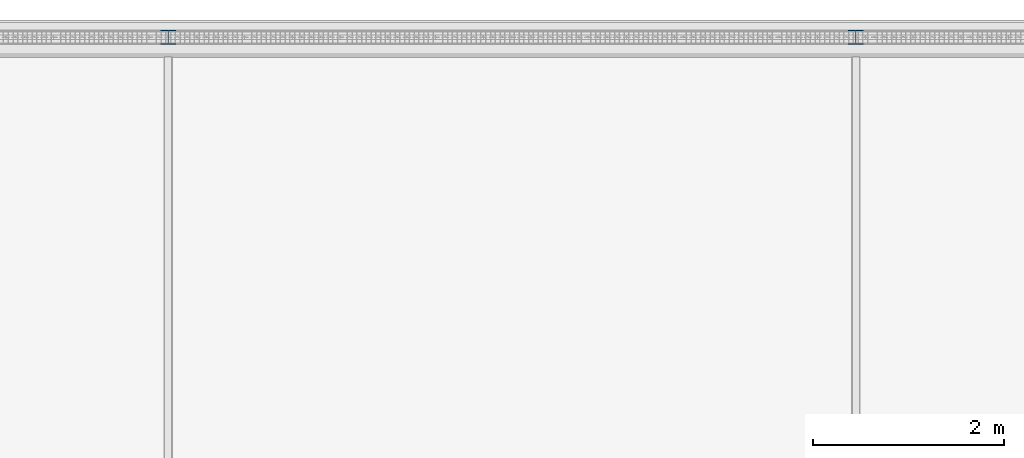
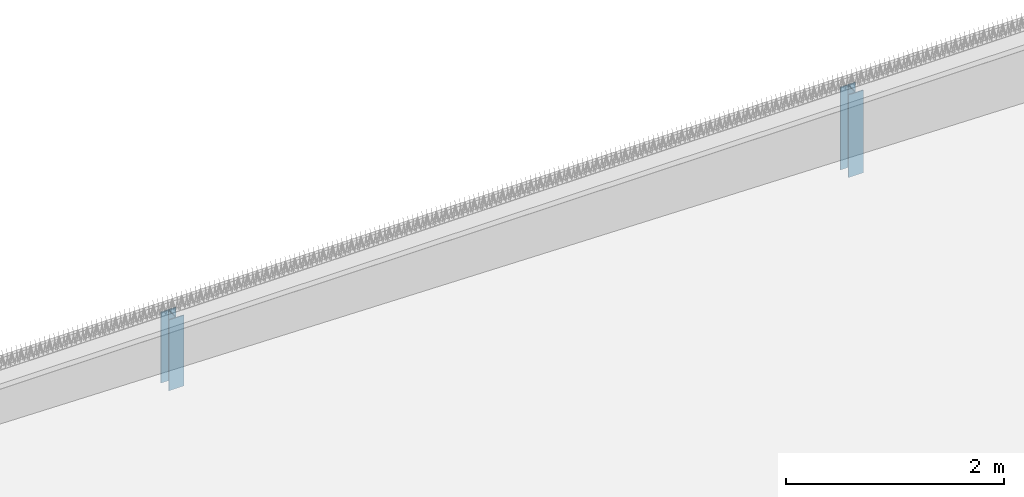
# One storey, part 30 of 81: 2 columns.
"""IFC2X3 building model written with IfcOpenShell, lengths in millimetres."""

import ifcopenshell
import ifcopenshell.guid

model = None  # the IFC model being written
_history = None  # IfcOwnerHistory: only IFC2X3 demands one
_inside = {}  # id of a spatial element -> (the spatial element, [elements in it])
_under = {}  # id of a project, library or spatial element -> (it, [spatial elements below it])
_declared = {}  # id of a project -> (the project, [libraries it declares])
_typed = {}  # id of a type object -> (the type object, [elements of that type])
_made_of = {}  # id of a material, layer set ... -> (it, [elements and type objects made of it])


def new_model(schema):
    """Start an empty IFC model of exactly this schema.

    Asked for "IFC4X3", IfcOpenShell would pick the latest addendum, in which some entities
    have other attributes; the version numbers below select the first issue.
    IFC2X3 requires an IfcOwnerHistory on every rooted entity: one is made here for all.
    """
    global model, _history
    if schema == "IFC4X3":
        model = ifcopenshell.file(schema_version=(4, 3, 0, 0))
    else:
        model = ifcopenshell.file(schema=schema)
    _inside.clear()
    _under.clear()
    _declared.clear()
    _typed.clear()
    _made_of.clear()
    _history = None
    if model.schema == "IFC2X3":
        org = make("IfcOrganization", Name="unknown")
        user = make(
            "IfcPersonAndOrganization",
            ThePerson=make("IfcPerson", FamilyName="unknown"),
            TheOrganization=org,
        )
        app = make(
            "IfcApplication",
            ApplicationDeveloper=org,
            Version="unknown",
            ApplicationFullName="unknown",
            ApplicationIdentifier="unknown",
        )
        _history = make(
            "IfcOwnerHistory",
            OwningUser=user,
            OwningApplication=app,
            ChangeAction="ADDED",
            CreationDate=0,
        )
    return model


def make(cls, **values):
    """One entity of the class cls with the attributes given. An attribute that is None is left unset."""
    return model.create_entity(
        cls, **{name: value for name, value in values.items() if value is not None}
    )


def entity(cls, *values):
    """Any entity or typed value of the class cls, its attributes in the order of the schema. None: left unset."""
    e = model.create_entity(cls)
    for i, value in enumerate(values):
        if value is not None:
            e[i] = value
    return e


def rooted(cls, **values):
    """An entity with a GlobalId (a new one), such as an element, a storey or a relation."""
    return make(cls, GlobalId=ifcopenshell.guid.new(), OwnerHistory=_history, **values)


def si_unit(unit_type, name, prefix=None):
    """IfcSIUnit, for example si_unit("LENGTHUNIT", "METRE", prefix="MILLI")."""
    return make("IfcSIUnit", UnitType=unit_type, Prefix=prefix, Name=name)


def converted_unit(unit_type, name, factor, base, dimensions=None, offset=None):
    """IfcConversionBasedUnit, such as the inch: factor (a typed value) times the base unit."""
    return make(
        "IfcConversionBasedUnit"
        if offset is None
        else "IfcConversionBasedUnitWithOffset",
        ConversionOffset=offset,
        Dimensions=None
        if dimensions is None
        else entity("IfcDimensionalExponents", *dimensions),
        UnitType=unit_type,
        Name=name,
        ConversionFactor=make(
            "IfcMeasureWithUnit", ValueComponent=factor, UnitComponent=base
        ),
    )


def derived_unit(unit_type, elements):
    """IfcDerivedUnit: a product of units, each with its exponent."""
    return make(
        "IfcDerivedUnit",
        Elements=[
            make("IfcDerivedUnitElement", Unit=unit, Exponent=power)
            for unit, power in elements
        ],
        UnitType=unit_type,
    )


def money_unit(currency):
    """IfcMonetaryUnit."""
    return make("IfcMonetaryUnit", Currency=currency)


def assignment(units):
    """IfcUnitAssignment: the units of a project."""
    return None if units is None else make("IfcUnitAssignment", Units=units)


def point(xyz):
    """IfcCartesianPoint."""
    return None if xyz is None else make("IfcCartesianPoint", Coordinates=xyz)


def direction(xyz):
    """IfcDirection."""
    return None if xyz is None else make("IfcDirection", DirectionRatios=xyz)


def frame(location, z_axis=None, x_axis=None):
    """IfcAxis2Placement3D, a coordinate frame: its origin and axes. An axis left out is left unset."""
    return make(
        "IfcAxis2Placement3D",
        Location=point(location),
        Axis=direction(z_axis),
        RefDirection=direction(x_axis),
    )


def origin_with_axes():
    """The frame at (0, 0, 0) with the z axis (0, 0, 1) and the x axis (1, 0, 0) written out."""
    return frame((0.0, 0.0, 0.0), z_axis=(0.0, 0.0, 1.0), x_axis=(1.0, 0.0, 0.0))


def place(relative_to, where):
    """IfcLocalPlacement: puts the frame where relative to a parent placement (None: the world)."""
    return make(
        "IfcLocalPlacement", PlacementRelTo=relative_to, RelativePlacement=where
    )


def context(
    kind, dimensions, precision=None, world=None, true_north=None, identifier=None
):
    """IfcGeometricRepresentationContext, for example the 3D "Model" context."""
    return make(
        "IfcGeometricRepresentationContext",
        ContextIdentifier=identifier,
        ContextType=kind,
        CoordinateSpaceDimension=dimensions,
        Precision=precision,
        WorldCoordinateSystem=world,
        TrueNorth=true_north,
    )


def subcontext(parent, identifier, kind, view, scale=None):
    """IfcGeometricRepresentationSubContext, for example "Body" below "Model"."""
    return make(
        "IfcGeometricRepresentationSubContext",
        ContextIdentifier=identifier,
        ContextType=kind,
        ParentContext=parent,
        TargetScale=scale,
        TargetView=view,
    )


def project(units=None, contexts=None):
    """IfcProject with its units and contexts."""
    return rooted(
        "IfcProject",
        Name="project",
        RepresentationContexts=contexts,
        UnitsInContext=assignment(units),
    )


def spatial(cls, under=None, at=None, **own):
    """A site, building, storey or space (cls), placed at a placement, below another one or the project."""
    s = rooted(cls, ObjectPlacement=at, **own)
    if under is not None:
        _under.setdefault(under.id(), (under, []))[1].append(s)
    return s


def faces_of(points, faces, orient=None, outer=None):
    """IfcFace entities. A face is a list of loops; a loop is a list of indices into points, from 0.

    orient and outer hold one flag for each loop. By default every Orientation is true, the
    first loop of a face is its IfcFaceOuterBound and the others are IfcFaceBound.
    """
    made = []
    for i, loops in enumerate(faces):
        bounds = []
        for j, loop in enumerate(loops):
            is_outer = j == 0 if outer is None else outer[i][j]
            bounds.append(
                make(
                    "IfcFaceOuterBound" if is_outer else "IfcFaceBound",
                    Bound=make("IfcPolyLoop", Polygon=[points[k] for k in loop]),
                    Orientation=True if orient is None else orient[i][j],
                )
            )
        made.append(make("IfcFace", Bounds=bounds))
    return made


def faceted_brep(points, faces, orient=None, outer=None, voids=None):
    """IfcFacetedBrep: a solid bounded by flat faces; with voids (closed shells), ...WithVoids."""
    shared = [point(p) for p in points]
    hull = make("IfcClosedShell", CfsFaces=faces_of(shared, faces, orient, outer))
    if voids is None:
        return make("IfcFacetedBrep", Outer=hull)
    return make(
        "IfcFacetedBrepWithVoids",
        Outer=hull,
        Voids=[
            make(cls, CfsFaces=faces_of(shared, fs, o, b)) for cls, fs, o, b in voids
        ],
    )


def shape(context_of_items, identifier, shape_type, items):
    """IfcShapeRepresentation: the items that make up one representation, for example the "Body"."""
    return make(
        "IfcShapeRepresentation",
        ContextOfItems=context_of_items,
        RepresentationIdentifier=identifier,
        RepresentationType=shape_type,
        Items=items,
    )


def material(Name=None, Category=None):
    """IfcMaterial."""
    return make("IfcMaterial", Name=Name, Category=Category)


def made_of(thing, what):
    """Note that an element or type object is made of a material, layer set ...; save() writes the relation."""
    if what is not None:
        _made_of.setdefault(what.id(), (what, []))[1].append(thing)
    return thing


def type_object(cls, material=None, **own):
    """A type object (cls), such as IfcWallType, which elements share."""
    return made_of(rooted(cls, **own), material)


def element(
    cls,
    number,
    at=None,
    inside=None,
    cuts=None,
    type_object=None,
    material=None,
    context=None,
    identifier="Body",
    shape_type=None,
    held_by="IfcProductDefinitionShape",
    body=None,
    shapes=None,
    **own,
):
    """One element of the class cls, such as IfcWall. Its Tag is "e" and its number.

    at: its placement. inside: the storey or other place that contains it. cuts: it is an
    opening in that element (IfcRelVoidsElement). A single representation is given by context,
    identifier, shape_type and body (its items); several are given by shapes. held_by: the class
    of the entity that holds the representations. save() writes the other relations.
    """
    e = rooted(cls, Tag="e%d" % number, ObjectPlacement=at, **own)
    if body is not None:
        shapes = [shape(context, identifier, shape_type, body)]
    if shapes is not None:
        e.Representation = make(held_by, Representations=shapes)
    if inside is not None:
        _inside.setdefault(inside.id(), (inside, []))[1].append(e)
    if cuts is not None:
        rooted(
            "IfcRelVoidsElement", RelatingBuildingElement=cuts, RelatedOpeningElement=e
        )
    if type_object is not None:
        _typed.setdefault(type_object.id(), (type_object, []))[1].append(e)
    return made_of(e, material)


def aggregate(whole, parts):
    """IfcRelAggregates: a whole, such as a stair, and the parts it consists of."""
    return rooted("IfcRelAggregates", RelatingObject=whole, RelatedObjects=parts)


def save(model, path):
    """Write the relations noted so far, then the file.

    IfcRelAggregates (storeys below a building ...), IfcRelContainedInSpatialStructure (elements
    in a storey), IfcRelDefinesByType, IfcRelAssociatesMaterial and IfcRelDeclares: one each for
    every whole, place, type object, material and project.
    """
    for whole, parts in _under.values():
        aggregate(whole, parts)
    for where, things in _inside.values():
        rooted(
            "IfcRelContainedInSpatialStructure",
            RelatedElements=things,
            RelatingStructure=where,
        )
    for kind, things in _typed.values():
        rooted("IfcRelDefinesByType", RelatedObjects=things, RelatingType=kind)
    for what, things in _made_of.values():
        rooted("IfcRelAssociatesMaterial", RelatedObjects=things, RelatingMaterial=what)
    for by, libraries in _declared.values():
        rooted("IfcRelDeclares", RelatingContext=by, RelatedDefinitions=libraries)
    model.write(path)


model = new_model("IFC2X3")

# Units and contexts
model_context = context("Model", 3, precision=0.01, world=origin_with_axes(), true_north=direction((0.0, 1.0)))
body_context = subcontext(model_context, "Body", "Model", "MODEL_VIEW")
ifc_project = project(units=[si_unit("LENGTHUNIT", "METRE", prefix="MILLI"), si_unit("AREAUNIT", "SQUARE_METRE"), si_unit("VOLUMEUNIT", "CUBIC_METRE"), converted_unit("PLANEANGLEUNIT", "DEGREE", entity("IfcPlaneAngleMeasure", 0.0174532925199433), si_unit("PLANEANGLEUNIT", "RADIAN"), dimensions=[0, 0, 0, 0, 0, 0, 0]), money_unit("EUR"), converted_unit("TIMEUNIT", "Year", entity("IfcTimeMeasure", 31557600.0), si_unit("TIMEUNIT", "SECOND"), dimensions=[0, 0, 1, 0, 0, 0, 0]), si_unit("MASSUNIT", "GRAM", prefix="KILO"), si_unit("THERMODYNAMICTEMPERATUREUNIT", "DEGREE_CELSIUS"), si_unit("LUMINOUSINTENSITYUNIT", "LUMEN"), si_unit("ENERGYUNIT", "JOULE", prefix="MEGA"), derived_unit("THERMALCONDUCTANCEUNIT", [(si_unit("POWERUNIT", "WATT"), 1), (si_unit("LENGTHUNIT", "METRE"), -1), (si_unit("THERMODYNAMICTEMPERATUREUNIT", "KELVIN"), -1)]), derived_unit("SPECIFICHEATCAPACITYUNIT", [(si_unit("ENERGYUNIT", "JOULE"), 1), (si_unit("MASSUNIT", "GRAM", prefix="KILO"), -1), (si_unit("THERMODYNAMICTEMPERATUREUNIT", "KELVIN"), -1)]), derived_unit("MASSDENSITYUNIT", [(si_unit("MASSUNIT", "GRAM", prefix="KILO"), 1), (si_unit("VOLUMEUNIT", "CUBIC_METRE"), -1)])], contexts=[model_context])

# Site, building, storey
site_placement = place(None, origin_with_axes())
site = spatial("IfcSite", under=ifc_project, at=site_placement, Name="Site", CompositionType="ELEMENT")
building_placement = place(site_placement, origin_with_axes())
building = spatial("IfcBuilding", under=site, at=building_placement, Name="Naam gebouw", CompositionType="ELEMENT")
storey_placement = place(building_placement, frame((0.0, 0.0, 15320.0), z_axis=(0.0, 0.0, 1.0), x_axis=(1.0, 0.0, 0.0)))
storey = spatial("IfcBuildingStorey", under=building, at=storey_placement, Name="01 dak", CompositionType="ELEMENT", Elevation=15320.0)

# Columns
ifc_material = material(Name="Metaal - Staal C")
column_type = type_object("IfcColumnType", Name="HEA160 160 x 152", PredefinedType="COLUMN")
column_1_placement = place(storey_placement, frame((119699.9999999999, 119524.0, -272.1363728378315), z_axis=(0.0, 0.0, 1.0), x_axis=(1.0, 0.0, 0.0)))
element("IfcColumn", 1, at=column_1_placement, inside=storey, type_object=column_type, material=ifc_material, Name="HEA160", ObjectType="COLUMN", context=body_context, shape_type="Brep", body=[
    faceted_brep([(-79.9999999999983, 75.9999999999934, 927.0970131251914), (-79.9999999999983, 75.9999999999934, 0.0), (-79.9999999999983, 66.99999999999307, 0.0), (-79.9999999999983, 66.99999999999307, 927.0970131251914), (79.9999999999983, 75.9999999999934, 927.0970131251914), (79.9999999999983, 75.9999999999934, 0.0), (79.9999999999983, 66.99999999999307, 0.0), (3.000000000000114, 66.99999999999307, 0.0), (3.000000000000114, -66.99999999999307, 0.0), (79.9999999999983, -66.99999999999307, 0.0), (79.9999999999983, -75.9999999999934, 0.0), (-79.9999999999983, -75.9999999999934, 0.0), (-79.9999999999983, -66.99999999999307, 0.0), (-3.000000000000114, -66.99999999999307, 0.0), (-3.000000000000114, 66.99999999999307, 0.0), (-3.000000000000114, 66.99999999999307, 927.0970131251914), (-3.000000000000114, -66.99999999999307, 927.0970131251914), (-79.9999999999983, -66.99999999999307, 927.0970131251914), (-79.9999999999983, -75.9999999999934, 927.0970131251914), (79.9999999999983, -75.9999999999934, 927.0970131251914), (79.9999999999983, -66.99999999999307, 927.0970131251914), (3.000000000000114, -66.99999999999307, 927.0970131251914), (3.000000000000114, 66.99999999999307, 927.0970131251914), (79.9999999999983, 66.99999999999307, 927.0970131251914)], [[[0, 1, 2, 3]], [[4, 5, 1, 0]], [[2, 1, 5, 6, 7, 8, 9, 10, 11, 12, 13, 14]], [[3, 2, 14, 15]], [[4, 0, 3, 15, 16, 17, 18, 19, 20, 21, 22, 23]], [[23, 6, 5, 4]], [[22, 7, 6, 23]], [[21, 8, 7, 22]], [[20, 9, 8, 21]], [[19, 10, 9, 20]], [[18, 11, 10, 19]], [[17, 12, 11, 18]], [[16, 13, 12, 17]], [[15, 14, 13, 16]]]),
])
column_2_placement = place(storey_placement, frame((112499.9999999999, 119524.0, -138.9176451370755), z_axis=(0.0, 0.0, 1.0), x_axis=(1.0, 0.0, 0.0)))
element("IfcColumn", 2, at=column_2_placement, inside=storey, type_object=column_type, material=ifc_material, Name="HEA160", ObjectType="COLUMN", context=body_context, shape_type="Brep", body=[
    faceted_brep([(-79.9999999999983, 75.9999999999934, 793.8782854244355), (-79.9999999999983, 75.9999999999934, 0.0), (-79.9999999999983, 66.99999999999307, 0.0), (-79.9999999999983, 66.99999999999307, 793.8782854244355), (79.9999999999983, 75.9999999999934, 793.8782854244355), (79.9999999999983, 75.9999999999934, 0.0), (79.9999999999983, 66.99999999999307, 0.0), (3.000000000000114, 66.99999999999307, 0.0), (3.000000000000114, -66.99999999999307, 0.0), (79.9999999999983, -66.99999999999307, 0.0), (79.9999999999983, -75.9999999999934, 0.0), (-79.9999999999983, -75.9999999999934, 0.0), (-79.9999999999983, -66.99999999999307, 0.0), (-3.000000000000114, -66.99999999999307, 0.0), (-3.000000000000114, 66.99999999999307, 0.0), (-3.000000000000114, 66.99999999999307, 793.8782854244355), (-3.000000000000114, -66.99999999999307, 793.8782854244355), (-79.9999999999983, -66.99999999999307, 793.8782854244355), (-79.9999999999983, -75.9999999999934, 793.8782854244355), (79.9999999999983, -75.9999999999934, 793.8782854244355), (79.9999999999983, -66.99999999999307, 793.8782854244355), (3.000000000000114, -66.99999999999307, 793.8782854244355), (3.000000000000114, 66.99999999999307, 793.8782854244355), (79.9999999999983, 66.99999999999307, 793.8782854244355)], [[[0, 1, 2, 3]], [[4, 5, 1, 0]], [[2, 1, 5, 6, 7, 8, 9, 10, 11, 12, 13, 14]], [[3, 2, 14, 15]], [[4, 0, 3, 15, 16, 17, 18, 19, 20, 21, 22, 23]], [[23, 6, 5, 4]], [[22, 7, 6, 23]], [[21, 8, 7, 22]], [[20, 9, 8, 21]], [[19, 10, 9, 20]], [[18, 11, 10, 19]], [[17, 12, 11, 18]], [[16, 13, 12, 17]], [[15, 14, 13, 16]]]),
])

save(model, "model.ifc")
